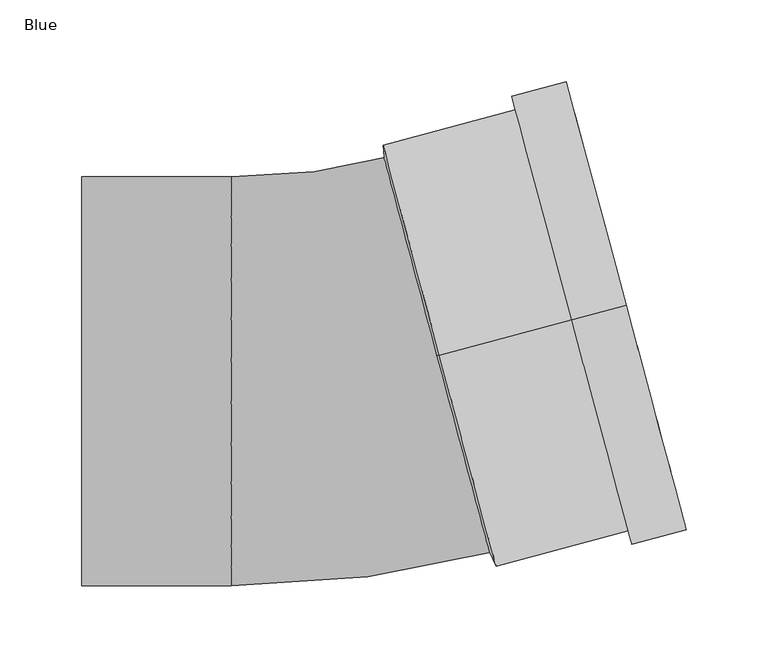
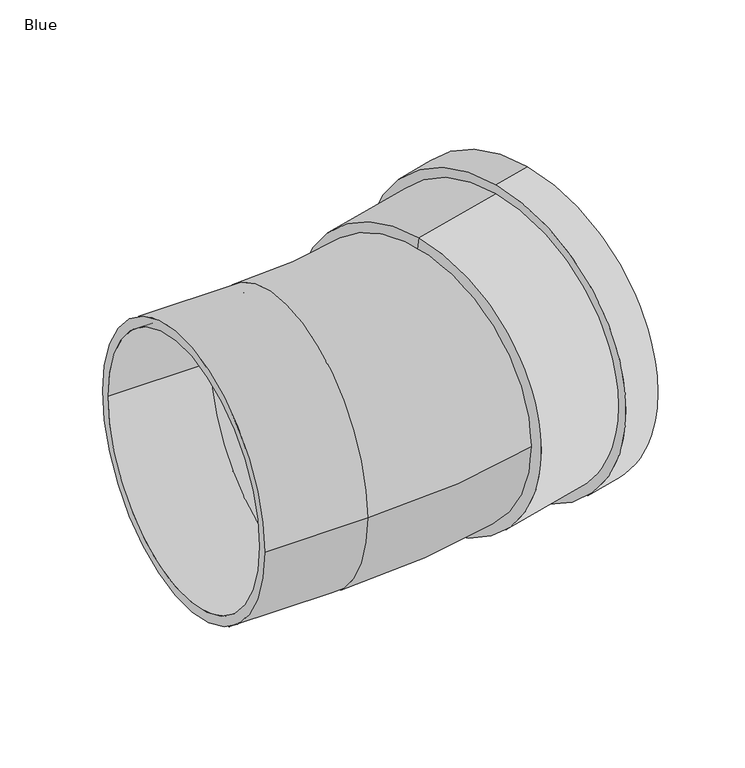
"""IFC4 building model written with IfcOpenShell, lengths in millimetres: pipe fitting geometry, AWADUKT PP SN10 Bend : Blue."""

from ifc_helpers import new_model, si_unit, point, frame, origin, place, context, project, spatial, polyline, circle_curve, ellipse_curve, trimmed, source, transform, mapped, element, save
from ifc_brep_helpers import plane_surface, cylinder_surface, revolved_surface, advanced_brep


def blue_045a93d3(model_context):
    return source(origin(), model_context, "Body", "AdvancedBrep", [
        advanced_brep(
        [(140.5422077, 37.6581711, 133.6), (140.5422077, 37.6581711, -133.6), (59.694366, 15.9950572, -133.6), (59.694366, 15.9950572, 133.6), (173.7700561, 46.5615462, 142.2), (173.7700561, 46.5615462, -142.2), (140.5422077, 37.6581711, -142.2), (140.5422077, 37.6581711, 142.2), (165.463094, 44.3357024, 125.0), (165.463094, 44.3357024, -125.0), (173.7700561, 46.5615462, -125.0), (173.7700561, 46.5615462, 125.0), (148.8491698, 39.8840149, 133.6), (148.8491698, 39.8840149, -133.6), (165.463094, 44.3357024, -133.6), (165.463094, 44.3357024, 133.6), (66.6647348, 17.8627619, 125.0), (66.6647348, 17.8627619, -125.0), (148.8491698, 39.8840149, -125.0), (148.8491698, 39.8840149, 125.0), (65.1999933, 17.4702855, 116.4), (65.1999933, 17.4702855, -116.4), (56.7648829, 15.2101045, 116.4), (56.7648829, 15.2101045, -116.4)],
        [
            (0, 1, circle_curve(frame((140.5422077, 37.6581711, 0.0), z_axis=(-0.9659258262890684, -0.2588190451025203, 0.0), x_axis=(0.0, 0.0, -1.0)), 133.6)),
            (1, 2),
            (2, 3, circle_curve(frame((59.694366, 15.9950572, 0.0), z_axis=(0.9659258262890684, 0.2588190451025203, 0.0), x_axis=(0.0, 0.0, -1.0)), 133.6)),
            (3, 0),
            (4, 5, circle_curve(frame((173.7700561, 46.5615462, 0.0), z_axis=(-0.9659258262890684, -0.2588190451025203, 0.0), x_axis=(0.0, 0.0, -1.0)), 142.2)),
            (5, 6),
            (6, 7, circle_curve(frame((140.5422077, 37.6581711, 0.0), z_axis=(0.9659258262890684, 0.2588190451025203, 0.0), x_axis=(0.0, 0.0, -1.0)), 142.2)),
            (7, 4),
            (8, 9, circle_curve(frame((165.463094, 44.3357024, 0.0), z_axis=(-0.9659258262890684, -0.2588190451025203, 0.0), x_axis=(0.0, 0.0, -1.0)), 125.0)),
            (9, 10),
            (10, 11, circle_curve(frame((173.7700561, 46.5615462, 0.0), z_axis=(0.9659258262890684, 0.2588190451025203, 0.0), x_axis=(0.0, 0.0, -1.0)), 125.0)),
            (11, 8),
            (12, 13, circle_curve(frame((148.8491698, 39.8840149, 0.0), z_axis=(-0.9659258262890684, -0.2588190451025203, 0.0), x_axis=(0.0, 0.0, -1.0)), 133.6)),
            (13, 14),
            (14, 15, circle_curve(frame((165.463094, 44.3357024, 0.0), z_axis=(0.9659258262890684, 0.2588190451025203, 0.0), x_axis=(0.0, 0.0, -1.0)), 133.6)),
            (15, 12),
            (16, 17, circle_curve(frame((66.6647348, 17.8627619, 0.0), z_axis=(-0.9659258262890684, -0.2588190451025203, 0.0), x_axis=(0.0, 0.0, -1.0)), 125.0)),
            (17, 18),
            (18, 19, circle_curve(frame((148.8491698, 39.8840149, 0.0), z_axis=(0.9659258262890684, 0.2588190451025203, 0.0), x_axis=(0.0, 0.0, -1.0)), 125.0)),
            (19, 16),
            (20, 21, circle_curve(frame((65.1999933, 17.4702855, 0.0), z_axis=(-0.9659258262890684, -0.2588190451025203, 0.0), x_axis=(0.0, 0.0, -1.0)), 116.4)),
            (21, 17),
            (16, 20),
            (22, 23, circle_curve(frame((56.7648829, 15.2101045, 0.0), z_axis=(-0.9659258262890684, -0.2588190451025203, 0.0), x_axis=(0.0, 0.0, -1.0)), 116.4)),
            (23, 21),
            (20, 22),
            (2, 23),
            (22, 3),
            (1, 0, circle_curve(frame((140.5422077, 37.6581711, 0.0), z_axis=(-0.9659258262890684, -0.2588190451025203, 0.0), x_axis=(0.0, 0.0, 1.0)), 133.6)),
            (3, 2, circle_curve(frame((59.694366, 15.9950572, 0.0), z_axis=(0.9659258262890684, 0.2588190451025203, 0.0), x_axis=(0.0, 0.0, 1.0)), 133.6)),
            (6, 7, circle_curve(frame((140.5422077, 37.6581711, 0.0), z_axis=(-0.9659258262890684, -0.2588190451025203, 0.0), x_axis=(0.0, 0.0, 1.0)), 142.2)),
            (5, 4, circle_curve(frame((173.7700561, 46.5615462, 0.0), z_axis=(-0.9659258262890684, -0.2588190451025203, 0.0), x_axis=(0.0, 0.0, 1.0)), 142.2)),
            (10, 11, circle_curve(frame((173.7700561, 46.5615462, 0.0), z_axis=(-0.9659258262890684, -0.2588190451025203, 0.0), x_axis=(0.0, 0.0, 1.0)), 125.0)),
            (9, 8, circle_curve(frame((165.463094, 44.3357024, 0.0), z_axis=(-0.9659258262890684, -0.2588190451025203, 0.0), x_axis=(0.0, 0.0, 1.0)), 125.0)),
            (14, 15, circle_curve(frame((165.463094, 44.3357024, 0.0), z_axis=(-0.9659258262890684, -0.2588190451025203, 0.0), x_axis=(0.0, 0.0, 1.0)), 133.6)),
            (13, 12, circle_curve(frame((148.8491698, 39.8840149, 0.0), z_axis=(-0.9659258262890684, -0.2588190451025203, 0.0), x_axis=(0.0, 0.0, 1.0)), 133.6)),
            (18, 19, circle_curve(frame((148.8491698, 39.8840149, 0.0), z_axis=(-0.9659258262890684, -0.2588190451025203, 0.0), x_axis=(0.0, 0.0, 1.0)), 125.0)),
            (17, 16, circle_curve(frame((66.6647348, 17.8627619, 0.0), z_axis=(-0.9659258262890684, -0.2588190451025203, 0.0), x_axis=(0.0, 0.0, 1.0)), 125.0)),
            (21, 20, circle_curve(frame((65.1999933, 17.4702855, 0.0), z_axis=(-0.9659258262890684, -0.2588190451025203, 0.0), x_axis=(0.0, 0.0, 1.0)), 116.4)),
            (23, 22, circle_curve(frame((56.7648829, 15.2101045, 0.0), z_axis=(-0.9659258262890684, -0.2588190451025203, 0.0), x_axis=(0.0, 0.0, 1.0)), 116.4)),
        ],
        [
            cylinder_surface(frame((65.1999933, 17.4702855, 0.0), z_axis=(0.9659258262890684, 0.2588190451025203, 0.0), x_axis=(0.0, 0.0, -1.0)), 133.6),
            cylinder_surface(frame((65.1999933, 17.4702855, 0.0), z_axis=(0.9659258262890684, 0.2588190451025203, 0.0), x_axis=(0.0, 0.0, -1.0)), 142.2),
            revolved_surface(polyline([(173.77005611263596, 46.56154615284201, -125.0), (165.4630940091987, 44.33570236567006, -125.0)]), (65.1999933, 17.4702855, 0.0), (0.9659258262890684, 0.2588190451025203, 0.0)),
            revolved_surface(polyline([(165.4630940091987, 44.33570236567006, -133.6), (148.84916982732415, 39.884014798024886, -133.6)]), (65.1999933, 17.4702855, 0.0), (0.9659258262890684, 0.2588190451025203, 0.0)),
            revolved_surface(polyline([(148.84916982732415, 39.884014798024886, -125.0), (66.66473482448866, 17.86276180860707, -125.0)]), (65.1999933, 17.4702855, 0.0), (0.9659258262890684, 0.2588190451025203, 0.0)),
            revolved_surface(polyline([(66.6647348, 17.8627619, -125.0), (65.1999933, 17.4702855, -116.4)]), (65.1999933, 17.4702855, 0.0), (0.9659258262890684, 0.2588190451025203, 0.0)),
            revolved_surface(polyline([(65.1999933, 17.4702855, -116.4), (56.76488290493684, 15.210104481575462, -116.4)]), (65.1999933, 17.4702855, 0.0), (0.9659258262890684, 0.2588190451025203, 0.0)),
            revolved_surface(polyline([(56.7648829, 15.2101045, -116.4), (59.694366, 15.9950572, -133.6)]), (65.1999933, 17.4702855, 0.0), (0.9659258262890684, 0.2588190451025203, 0.0)),
            cylinder_surface(frame((65.1999933, 17.4702855, 0.0), z_axis=(0.9659258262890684, 0.2588190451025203, 0.0), x_axis=(0.0, 0.0, 1.0)), 133.6),
            plane_surface(frame((140.5422077, 37.6581711, 0.0), z_axis=(-0.9659258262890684, -0.2588190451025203, 0.0), x_axis=(0.0, 0.0, 1.0))),
            cylinder_surface(frame((65.1999933, 17.4702855, 0.0), z_axis=(0.9659258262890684, 0.2588190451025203, 0.0), x_axis=(0.0, 0.0, 1.0)), 142.2),
            plane_surface(frame((173.7700561, 46.5615462, 0.0), z_axis=(0.9659258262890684, 0.2588190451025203, 0.0), x_axis=(0.0, 0.0, 1.0))),
            revolved_surface(polyline([(173.77005611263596, 46.56154615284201, 125.0), (165.4630940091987, 44.33570236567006, 125.0)]), (65.1999933, 17.4702855, 0.0), (0.9659258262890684, 0.2588190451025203, 0.0)),
            plane_surface(frame((165.463094, 44.3357024, 0.0), z_axis=(-0.9659258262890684, -0.2588190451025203, 0.0), x_axis=(0.0, 0.0, 1.0))),
            revolved_surface(polyline([(165.4630940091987, 44.33570236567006, 133.6), (148.84916982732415, 39.884014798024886, 133.6)]), (65.1999933, 17.4702855, 0.0), (0.9659258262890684, 0.2588190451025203, 0.0)),
            plane_surface(frame((148.8491698, 39.8840149, 0.0), z_axis=(0.9659258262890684, 0.2588190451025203, 0.0), x_axis=(0.0, 0.0, 1.0))),
            revolved_surface(polyline([(148.84916982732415, 39.884014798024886, 125.0), (66.66473482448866, 17.86276180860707, 125.0)]), (65.1999933, 17.4702855, 0.0), (0.9659258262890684, 0.2588190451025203, 0.0)),
            revolved_surface(polyline([(66.6647348, 17.8627619, 125.0), (65.1999933, 17.4702855, 116.4)]), (65.1999933, 17.4702855, 0.0), (0.9659258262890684, 0.2588190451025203, 0.0)),
            revolved_surface(polyline([(65.1999933, 17.4702855, 116.4), (56.76488290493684, 15.210104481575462, 116.4)]), (65.1999933, 17.4702855, 0.0), (0.9659258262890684, 0.2588190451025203, 0.0)),
            revolved_surface(polyline([(56.7648829, 15.2101045, 116.4), (59.694366, 15.9950572, 133.6)]), (65.1999933, 17.4702855, 0.0), (0.9659258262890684, 0.2588190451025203, 0.0)),
        ],
        [
            (0, [[1, 2, 3, 4]]),
            (1, [[5, 6, 7, 8]]),
            (2, [[9, 10, 11, 12]]),
            (3, [[13, 14, 15, 16]]),
            (4, [[17, 18, 19, 20]]),
            (5, [[21, 22, -17, 23]]),
            (6, [[24, 25, -21, 26]]),
            (7, [[-3, 27, -24, 28]]),
            (8, [[29, -4, 30, -2]]),
            (9, [[31, -7], [-29, -1]]),
            (10, [[32, -8, -31, -6]]),
            (11, [[-32, -5], [33, -11]]),
            (12, [[34, -12, -33, -10]]),
            (13, [[35, -15], [-34, -9]]),
            (14, [[36, -16, -35, -14]]),
            (15, [[-36, -13], [37, -19]]),
            (16, [[38, -20, -37, -18]]),
            (17, [[39, -23, -38, -22]]),
            (18, [[40, -26, -39, -25]]),
            (19, [[-30, -28, -40, -27]]),
        ],
    ),
        advanced_brep(
        [(-159.0, -125.0, 0.0), (-159.0, 125.0, 0.0), (-159.0, -116.4, 0.0), (-159.0, 116.4, 0.0), (97.5523739, -103.2704427, 0.0), (32.8476126, 138.2110138, 0.0), (95.3265301, -94.9634806, 0.0), (35.0734564, 129.9040517, 0.0), (-67.5, -116.4, 0.0), (-67.5, 116.4, 0.0), (-67.5, -125.0, 0.0), (-67.5, 125.0, 0.0)],
        [
            (0, 1, circle_curve(frame((-159.0, 0.0, 0.0), z_axis=(-1.0, 0.0, 0.0), x_axis=(0.0, 1.0, 0.0)), 125.0)),
            (1, 0, circle_curve(frame((-159.0, 0.0, 0.0), z_axis=(-1.0, 0.0, 0.0), x_axis=(0.0, 1.0, 0.0)), 125.0)),
            (2, 3, circle_curve(frame((-159.0, 0.0, 0.0), z_axis=(1.0, 0.0, 0.0), x_axis=(0.0, 1.0, 0.0)), 116.4)),
            (3, 2, circle_curve(frame((-159.0, 0.0, 0.0), z_axis=(1.0, 0.0, 0.0), x_axis=(0.0, 1.0, 0.0)), 116.4)),
            (4, 5, circle_curve(frame((65.1999933, 17.4702855, 0.0), z_axis=(0.9659258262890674, 0.25881904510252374, 0.0), x_axis=(-0.25881904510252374, 0.9659258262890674, 0.0)), 125.0)),
            (5, 4, circle_curve(frame((65.1999933, 17.4702855, 0.0), z_axis=(0.9659258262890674, 0.25881904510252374, 0.0), x_axis=(-0.25881904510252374, 0.9659258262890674, 0.0)), 125.0)),
            (6, 7, circle_curve(frame((65.1999933, 17.4702855, 0.0), z_axis=(-0.9659258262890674, -0.25881904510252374, 0.0), x_axis=(-0.25881904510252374, 0.9659258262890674, 0.0)), 116.4)),
            (7, 6, circle_curve(frame((65.1999933, 17.4702855, 0.0), z_axis=(-0.9659258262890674, -0.25881904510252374, 0.0), x_axis=(-0.25881904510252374, 0.9659258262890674, 0.0)), 116.4)),
            (2, 8),
            (8, 9, circle_curve(frame((-67.5, 0.0, 0.0), z_axis=(1.0, 0.0, 0.0), x_axis=(0.0, 1.0, 0.0)), 116.4)),
            (9, 3),
            (9, 8, circle_curve(frame((-67.5, 0.0, 0.0), z_axis=(1.0, 0.0, 0.0), x_axis=(0.0, 1.0, 0.0)), 116.4)),
            (0, 10),
            (10, 11, circle_curve(frame((-67.5, 0.0, 0.0), z_axis=(-1.0, 0.0, 0.0), x_axis=(0.0, 1.0, 0.0)), 125.0)),
            (11, 1),
            (11, 10, circle_curve(frame((-67.5, 0.0, 0.0), z_axis=(-1.0, 0.0, 0.0), x_axis=(0.0, 1.0, 0.0)), 125.0)),
            (7, 9, circle_curve(frame((-67.5, 512.7134026, 0.0), z_axis=(0.0, 0.0, -1.0), x_axis=(0.0, -1.0, 0.0)), 396.3134026)),
            (8, 6, circle_curve(frame((-67.5, 512.7134026, 0.0), z_axis=(0.0, 0.0, 1.0), x_axis=(0.0, -1.0, 0.0)), 629.1134026)),
            (5, 11, circle_curve(frame((-67.5, 512.7134026, 0.0), z_axis=(0.0, 0.0, -1.0), x_axis=(0.0, -1.0, 0.0)), 387.7134026)),
            (10, 4, circle_curve(frame((-67.5, 512.7134026, 0.0), z_axis=(0.0, 0.0, 1.0), x_axis=(0.0, -1.0, 0.0)), 637.7134026)),
        ],
        [
            plane_surface(frame((-159.0, 0.0, 0.0), z_axis=(-1.0, 0.0, 0.0), x_axis=(0.0, 0.0, 1.0))),
            plane_surface(frame((65.1999933, 17.4702855, 0.0), z_axis=(0.9659258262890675, 0.25881904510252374, 0.0), x_axis=(0.0, 0.0, 1.0))),
            revolved_surface(polyline([(-67.5, 116.4, 0.0), (-159.0, 116.4, 0.0)]), (-159.0, 0.0, 0.0), (1.0, 0.0, 0.0)),
            cylinder_surface(frame((-159.0, 0.0, 0.0), z_axis=(-1.0, 0.0, 0.0), x_axis=(0.0, 1.0, 0.0)), 125.0),
            revolved_surface(trimmed(ellipse_curve(frame((-67.5, 0.0, 0.0), z_axis=(1.0, 0.0, 0.0), x_axis=(0.0, 1.0, 0.0)), 116.4, 116.4), [point((-67.5, -116.4, 0.0))], [point((-67.5, 116.4, 0.0))], True, "CARTESIAN"), (-67.5, 512.7134026, 0.0), (0.0, 0.0, 1.0)),
            revolved_surface(trimmed(ellipse_curve(frame((-67.5, 0.0, 0.0), z_axis=(1.0, 0.0, 0.0), x_axis=(0.0, 1.0, 0.0)), 116.4, 116.4), [point((-67.5, 116.4, 0.0))], [point((-67.5, -116.4, 0.0))], True, "CARTESIAN"), (-67.5, 512.7134026, 0.0), (0.0, 0.0, 1.0)),
            revolved_surface(trimmed(ellipse_curve(frame((-67.5, 0.0, 0.0), z_axis=(-1.0, 0.0, 0.0), x_axis=(0.0, 1.0, 0.0)), 125.0, 125.0), [point((-67.5, -125.0, 0.0))], [point((-67.5, 125.0, 0.0))], True, "CARTESIAN"), (-67.5, 512.7134026, 0.0), (0.0, 0.0, 1.0)),
            revolved_surface(trimmed(ellipse_curve(frame((-67.5, 0.0, 0.0), z_axis=(-1.0, 0.0, 0.0), x_axis=(0.0, 1.0, 0.0)), 125.0, 125.0), [point((-67.5, 125.0, 0.0))], [point((-67.5, -125.0, 0.0))], True, "CARTESIAN"), (-67.5, 512.7134026, 0.0), (0.0, 0.0, 1.0)),
        ],
        [
            (0, [[1, 2], [3, 4]]),
            (1, [[5, 6], [7, 8]]),
            (2, [[-3, 9, 10, 11]]),
            (2, [[-4, -11, 12, -9]]),
            (3, [[-1, 13, 14, 15]]),
            (3, [[-2, -15, 16, -13]]),
            (4, [[17, -10, 18, -8]]),
            (5, [[-18, -12, -17, -7]]),
            (6, [[19, -14, 20, -6]]),
            (7, [[-20, -16, -19, -5]]),
        ],
    ),
    ])


if __name__ == "__main__":
    model = new_model("IFC4")
    model_context = context("Model", 3, world=origin())
    ifc_project = project(units=[si_unit("LENGTHUNIT", "METRE", prefix="MILLI")], contexts=[model_context])
    site = spatial("IfcSite", under=ifc_project)
    building = spatial("IfcBuilding", under=site)
    placement = place(None, origin())
    blue_shape = blue_045a93d3(model_context)
    element("IfcPipeFitting", 1, ObjectType="AWADUKT PP SN10 Bend : Blue", at=placement, inside=building, context=model_context, shape_type="MappedRepresentation", body=[
        mapped(blue_shape, transform((0.0, 0.0, 0.0), x_axis=(1.0, 0.0, 0.0), y_axis=(0.0, 1.0, 0.0), z_axis=(0.0, 0.0, 1.0))),
    ])
    save(model, "model.ifc")
